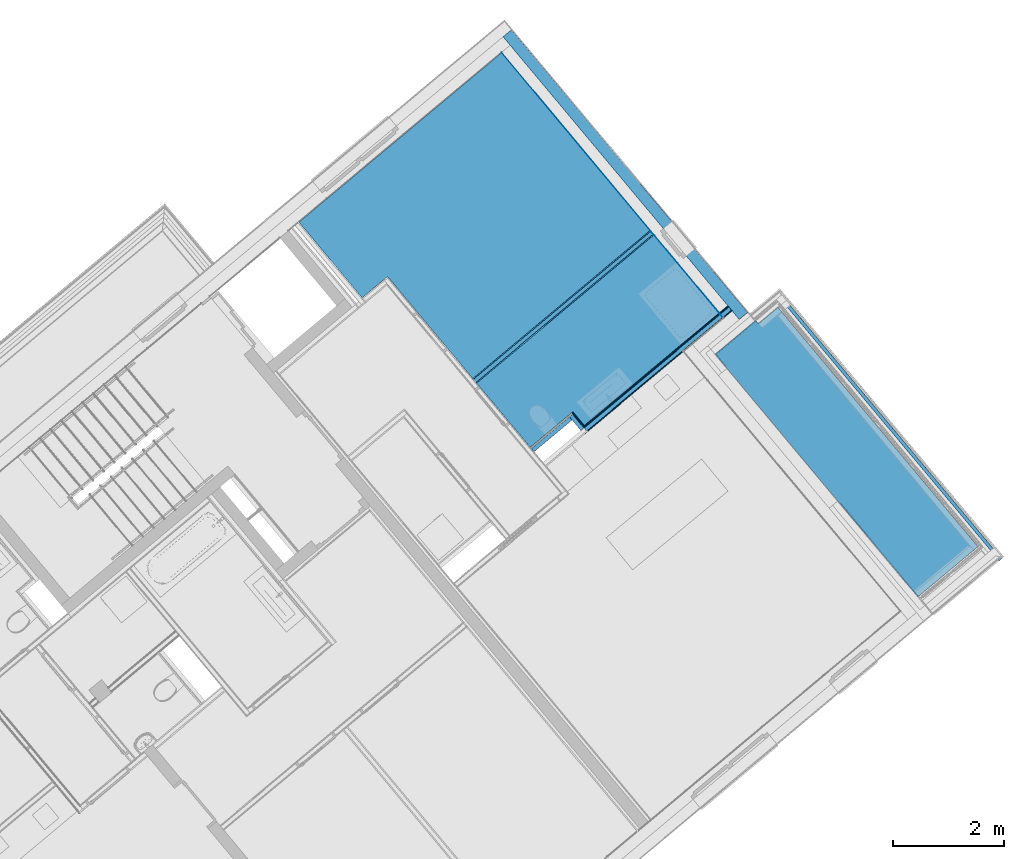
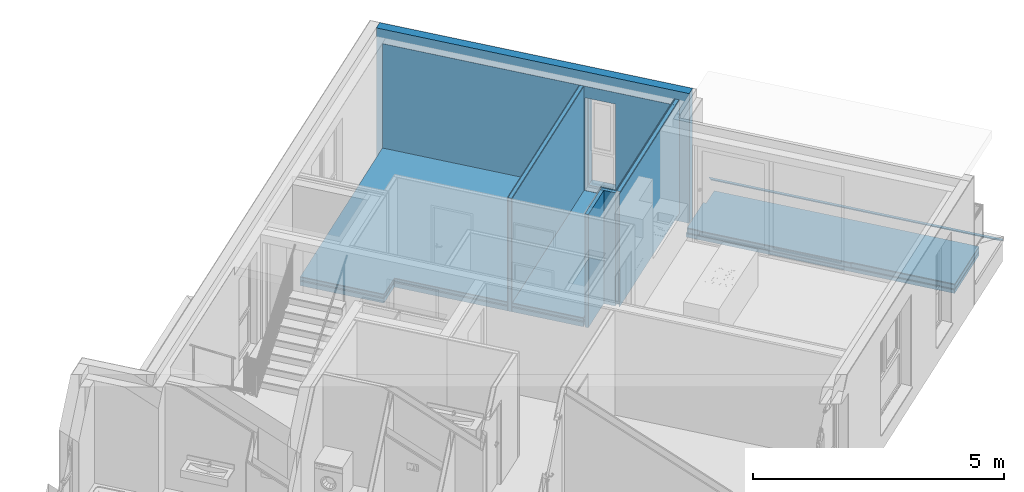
# One storey, part 36 of 53: 26 building element parts, 1 opening, 9 elements without a shape of their own.
"""IFC4 building model written with IfcOpenShell, lengths in metres."""

import ifcopenshell
import ifcopenshell.guid

model = None  # the IFC model being written
_history = None  # IfcOwnerHistory: only IFC2X3 demands one
_inside = {}  # id of a spatial element -> (the spatial element, [elements in it])
_under = {}  # id of a project, library or spatial element -> (it, [spatial elements below it])
_declared = {}  # id of a project -> (the project, [libraries it declares])
_typed = {}  # id of a type object -> (the type object, [elements of that type])
_made_of = {}  # id of a material, layer set ... -> (it, [elements and type objects made of it])


def new_model(schema):
    """Start an empty IFC model of exactly this schema.

    Asked for "IFC4X3", IfcOpenShell would pick the latest addendum, in which some entities
    have other attributes; the version numbers below select the first issue.
    IFC2X3 requires an IfcOwnerHistory on every rooted entity: one is made here for all.
    """
    global model, _history
    if schema == "IFC4X3":
        model = ifcopenshell.file(schema_version=(4, 3, 0, 0))
    else:
        model = ifcopenshell.file(schema=schema)
    _inside.clear()
    _under.clear()
    _declared.clear()
    _typed.clear()
    _made_of.clear()
    _history = None
    if model.schema == "IFC2X3":
        org = make("IfcOrganization", Name="unknown")
        user = make(
            "IfcPersonAndOrganization",
            ThePerson=make("IfcPerson", FamilyName="unknown"),
            TheOrganization=org,
        )
        app = make(
            "IfcApplication",
            ApplicationDeveloper=org,
            Version="unknown",
            ApplicationFullName="unknown",
            ApplicationIdentifier="unknown",
        )
        _history = make(
            "IfcOwnerHistory",
            OwningUser=user,
            OwningApplication=app,
            ChangeAction="ADDED",
            CreationDate=0,
        )
    return model


def make(cls, **values):
    """One entity of the class cls with the attributes given. An attribute that is None is left unset."""
    return model.create_entity(
        cls, **{name: value for name, value in values.items() if value is not None}
    )


def entity(cls, *values):
    """Any entity or typed value of the class cls, its attributes in the order of the schema. None: left unset."""
    e = model.create_entity(cls)
    for i, value in enumerate(values):
        if value is not None:
            e[i] = value
    return e


def rooted(cls, **values):
    """An entity with a GlobalId (a new one), such as an element, a storey or a relation."""
    return make(cls, GlobalId=ifcopenshell.guid.new(), OwnerHistory=_history, **values)


def si_unit(unit_type, name, prefix=None):
    """IfcSIUnit, for example si_unit("LENGTHUNIT", "METRE", prefix="MILLI")."""
    return make("IfcSIUnit", UnitType=unit_type, Prefix=prefix, Name=name)


def converted_unit(unit_type, name, factor, base, dimensions=None, offset=None):
    """IfcConversionBasedUnit, such as the inch: factor (a typed value) times the base unit."""
    return make(
        "IfcConversionBasedUnit"
        if offset is None
        else "IfcConversionBasedUnitWithOffset",
        ConversionOffset=offset,
        Dimensions=None
        if dimensions is None
        else entity("IfcDimensionalExponents", *dimensions),
        UnitType=unit_type,
        Name=name,
        ConversionFactor=make(
            "IfcMeasureWithUnit", ValueComponent=factor, UnitComponent=base
        ),
    )


def derived_unit(unit_type, elements):
    """IfcDerivedUnit: a product of units, each with its exponent."""
    return make(
        "IfcDerivedUnit",
        Elements=[
            make("IfcDerivedUnitElement", Unit=unit, Exponent=power)
            for unit, power in elements
        ],
        UnitType=unit_type,
    )


def assignment(units):
    """IfcUnitAssignment: the units of a project."""
    return None if units is None else make("IfcUnitAssignment", Units=units)


def point(xyz):
    """IfcCartesianPoint."""
    return None if xyz is None else make("IfcCartesianPoint", Coordinates=xyz)


def direction(xyz):
    """IfcDirection."""
    return None if xyz is None else make("IfcDirection", DirectionRatios=xyz)


def frame(location, z_axis=None, x_axis=None):
    """IfcAxis2Placement3D, a coordinate frame: its origin and axes. An axis left out is left unset."""
    return make(
        "IfcAxis2Placement3D",
        Location=point(location),
        Axis=direction(z_axis),
        RefDirection=direction(x_axis),
    )


def origin_with_axes():
    """The frame at (0, 0, 0) with the z axis (0, 0, 1) and the x axis (1, 0, 0) written out."""
    return frame((0.0, 0.0, 0.0), z_axis=(0.0, 0.0, 1.0), x_axis=(1.0, 0.0, 0.0))


def place(relative_to, where):
    """IfcLocalPlacement: puts the frame where relative to a parent placement (None: the world)."""
    return make(
        "IfcLocalPlacement", PlacementRelTo=relative_to, RelativePlacement=where
    )


def context(
    kind, dimensions, precision=None, world=None, true_north=None, identifier=None
):
    """IfcGeometricRepresentationContext, for example the 3D "Model" context."""
    return make(
        "IfcGeometricRepresentationContext",
        ContextIdentifier=identifier,
        ContextType=kind,
        CoordinateSpaceDimension=dimensions,
        Precision=precision,
        WorldCoordinateSystem=world,
        TrueNorth=true_north,
    )


def subcontext(parent, identifier, kind, view, scale=None):
    """IfcGeometricRepresentationSubContext, for example "Body" below "Model"."""
    return make(
        "IfcGeometricRepresentationSubContext",
        ContextIdentifier=identifier,
        ContextType=kind,
        ParentContext=parent,
        TargetScale=scale,
        TargetView=view,
    )


def project(units=None, contexts=None):
    """IfcProject with its units and contexts."""
    return rooted(
        "IfcProject",
        Name="project",
        RepresentationContexts=contexts,
        UnitsInContext=assignment(units),
    )


def spatial(cls, under=None, at=None, **own):
    """A site, building, storey or space (cls), placed at a placement, below another one or the project."""
    s = rooted(cls, ObjectPlacement=at, **own)
    if under is not None:
        _under.setdefault(under.id(), (under, []))[1].append(s)
    return s


def point_list(points):
    """IfcCartesianPointList2D or 3D."""
    cls = (
        "IfcCartesianPointList2D" if len(points[0]) == 2 else "IfcCartesianPointList3D"
    )
    return make(cls, CoordList=points)


def polygons(points, faces, closed=None, point_numbers=None):
    """IfcPolygonalFaceSet: a face is its outer loop, then its inner loops; points numbered from 1."""
    made = []
    for loops in faces:
        if len(loops) == 1:
            made.append(make("IfcIndexedPolygonalFace", CoordIndex=loops[0]))
        else:
            made.append(
                make(
                    "IfcIndexedPolygonalFaceWithVoids",
                    CoordIndex=loops[0],
                    InnerCoordIndices=loops[1:],
                )
            )
    return make(
        "IfcPolygonalFaceSet",
        Coordinates=point_list(points),
        Closed=closed,
        Faces=made,
        PnIndex=point_numbers,
    )


def shape(context_of_items, identifier, shape_type, items):
    """IfcShapeRepresentation: the items that make up one representation, for example the "Body"."""
    return make(
        "IfcShapeRepresentation",
        ContextOfItems=context_of_items,
        RepresentationIdentifier=identifier,
        RepresentationType=shape_type,
        Items=items,
    )


def material(Name=None, Category=None):
    """IfcMaterial."""
    return make("IfcMaterial", Name=Name, Category=Category)


def made_of(thing, what):
    """Note that an element or type object is made of a material, layer set ...; save() writes the relation."""
    if what is not None:
        _made_of.setdefault(what.id(), (what, []))[1].append(thing)
    return thing


def type_object(cls, material=None, **own):
    """A type object (cls), such as IfcWallType, which elements share."""
    return made_of(rooted(cls, **own), material)


def element(
    cls,
    number,
    at=None,
    inside=None,
    cuts=None,
    type_object=None,
    material=None,
    context=None,
    identifier="Body",
    shape_type=None,
    held_by="IfcProductDefinitionShape",
    body=None,
    shapes=None,
    **own,
):
    """One element of the class cls, such as IfcWall. Its Tag is "e" and its number.

    at: its placement. inside: the storey or other place that contains it. cuts: it is an
    opening in that element (IfcRelVoidsElement). A single representation is given by context,
    identifier, shape_type and body (its items); several are given by shapes. held_by: the class
    of the entity that holds the representations. save() writes the other relations.
    """
    e = rooted(cls, Tag="e%d" % number, ObjectPlacement=at, **own)
    if body is not None:
        shapes = [shape(context, identifier, shape_type, body)]
    if shapes is not None:
        e.Representation = make(held_by, Representations=shapes)
    if inside is not None:
        _inside.setdefault(inside.id(), (inside, []))[1].append(e)
    if cuts is not None:
        rooted(
            "IfcRelVoidsElement", RelatingBuildingElement=cuts, RelatedOpeningElement=e
        )
    if type_object is not None:
        _typed.setdefault(type_object.id(), (type_object, []))[1].append(e)
    return made_of(e, material)


def aggregate(whole, parts):
    """IfcRelAggregates: a whole, such as a stair, and the parts it consists of."""
    return rooted("IfcRelAggregates", RelatingObject=whole, RelatedObjects=parts)


def save(model, path):
    """Write the relations noted so far, then the file.

    IfcRelAggregates (storeys below a building ...), IfcRelContainedInSpatialStructure (elements
    in a storey), IfcRelDefinesByType, IfcRelAssociatesMaterial and IfcRelDeclares: one each for
    every whole, place, type object, material and project.
    """
    for whole, parts in _under.values():
        aggregate(whole, parts)
    for where, things in _inside.values():
        rooted(
            "IfcRelContainedInSpatialStructure",
            RelatedElements=things,
            RelatingStructure=where,
        )
    for kind, things in _typed.values():
        rooted("IfcRelDefinesByType", RelatedObjects=things, RelatingType=kind)
    for what, things in _made_of.values():
        rooted("IfcRelAssociatesMaterial", RelatedObjects=things, RelatingMaterial=what)
    for by, libraries in _declared.values():
        rooted("IfcRelDeclares", RelatingContext=by, RelatedDefinitions=libraries)
    model.write(path)


model = new_model("IFC4")

# Units and contexts
model_context = context("Model", 3, precision=1e-05, world=origin_with_axes(), true_north=direction((0.0, 1.0)))
body_context = subcontext(model_context, "Body", "Model", "MODEL_VIEW")
ifc_project = project(units=[si_unit("LENGTHUNIT", "METRE"), si_unit("AREAUNIT", "SQUARE_METRE"), si_unit("VOLUMEUNIT", "CUBIC_METRE"), converted_unit("PLANEANGLEUNIT", "DEGREE", entity("IfcPlaneAngleMeasure", 0.0174532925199), si_unit("PLANEANGLEUNIT", "RADIAN"), dimensions=[0, 0, 0, 0, 0, 0, 0]), converted_unit("TIMEUNIT", "Year", entity("IfcTimeMeasure", 31556926.0), si_unit("TIMEUNIT", "SECOND"), dimensions=[0, 0, 1, 0, 0, 0, 0]), si_unit("MASSUNIT", "GRAM", prefix="KILO"), si_unit("THERMODYNAMICTEMPERATUREUNIT", "DEGREE_CELSIUS"), si_unit("LUMINOUSINTENSITYUNIT", "LUMEN"), si_unit("ENERGYUNIT", "JOULE", prefix="MEGA"), derived_unit("THERMALCONDUCTANCEUNIT", [(si_unit("POWERUNIT", "WATT"), 1), (si_unit("LENGTHUNIT", "METRE"), -1), (si_unit("THERMODYNAMICTEMPERATUREUNIT", "KELVIN"), -1)]), derived_unit("SPECIFICHEATCAPACITYUNIT", [(si_unit("ENERGYUNIT", "JOULE"), 1), (si_unit("MASSUNIT", "GRAM", prefix="KILO"), -1), (si_unit("THERMODYNAMICTEMPERATUREUNIT", "KELVIN"), -1)]), derived_unit("MASSDENSITYUNIT", [(si_unit("MASSUNIT", "GRAM", prefix="KILO"), 1), (si_unit("VOLUMEUNIT", "CUBIC_METRE"), -1)])], contexts=[model_context])

# Site, building, storey
site_placement = place(None, frame((-0.00153261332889, -0.00661245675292, 0.0), z_axis=(0.0, 0.0, 1.0), x_axis=(1.0, 0.0, 0.0)))
site = spatial("IfcSite", under=ifc_project, at=site_placement, Name="Gelände", CompositionType="ELEMENT")
building_placement = place(site_placement, origin_with_axes())
building = spatial("IfcBuilding", under=site, at=building_placement, Name="Gebäude", CompositionType="ELEMENT")
storey_placement = place(building_placement, frame((0.0, 0.0, 2.74), z_axis=(0.0, 0.0, 1.0), x_axis=(1.0, 0.0, 0.0)))
storey = spatial("IfcBuildingStorey", under=building, at=storey_placement, Name="OG1", CompositionType="ELEMENT", Elevation=2.74)

# Wall, building element parts
wall_type_1 = type_object("IfcWallType", Name="LB 10,5 cm doppelte Vorsatzschale Bad 105", PredefinedType="NOTDEFINED")
wall_1_placement = place(storey_placement, frame((6.81308887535, 23.8632838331, 0.0), z_axis=(0.0, 0.0, 1.0), x_axis=(0.639370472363, -0.768898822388, 0.0)))
wall_1 = element("IfcWall", 1, at=wall_1_placement, inside=storey, type_object=wall_type_1, Name="Wand-004", PredefinedType="NOTDEFINED")
ifc_material_1 = material(Name="Gipskarton")
building_element_part_1_placement = place(wall_1_placement, origin_with_axes())
building_element_part_1 = element("IfcBuildingElementPart", 2, at=building_element_part_1_placement, material=ifc_material_1, Name="Gipskarton", PredefinedType="NOTDEFINED", context=body_context, shape_type="Tessellation", body=[
    polygons([(0.338014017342, 0.09, 0.0), (0.0, 0.09, 0.0), (0.0, 0.105, 0.0), (0.337978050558, 0.105, 0.0), (0.338014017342, 0.09, 2.76), (0.0, 0.09, 2.76), (0.0, 0.105, 2.76), (0.337978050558, 0.105, 2.76)], [[[1, 2, 3, 4]], [[5, 6, 2, 1]], [[3, 2, 6, 7]], [[4, 3, 7, 8]], [[4, 8, 5, 1]], [[8, 7, 6, 5]]], closed=True),
])
building_element_part_2_placement = place(wall_1_placement, origin_with_axes())
building_element_part_2 = element("IfcBuildingElementPart", 3, at=building_element_part_2_placement, material=ifc_material_1, Name="Gipskarton", PredefinedType="NOTDEFINED", context=body_context, shape_type="Tessellation", body=[
    polygons([(0.353050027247, 0.075, 0.0), (0.0, 0.075, 0.0), (0.0, 0.09, 0.0), (0.353014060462, 0.09, 0.0), (0.353050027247, 0.075, 2.76), (0.0, 0.075, 2.76), (0.0, 0.09, 2.76), (0.353014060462, 0.09, 2.76)], [[[1, 2, 3, 4]], [[5, 6, 2, 1]], [[3, 2, 6, 7]], [[4, 3, 7, 8]], [[4, 8, 5, 1]], [[8, 7, 6, 5]]], closed=True),
])
ifc_material_2 = material(Name="Mineralwolle weich")
building_element_part_3_placement = place(wall_1_placement, origin_with_axes())
building_element_part_3 = element("IfcBuildingElementPart", 4, at=building_element_part_3_placement, material=ifc_material_2, Name="Mineralwolle weich", PredefinedType="NOTDEFINED", context=body_context, shape_type="Tessellation", body=[
    polygons([(0.353050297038, 0.075, 0.0), (0.353229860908, 0.0, 0.0), (0.030000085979, 0.0, 0.0), (0.0298205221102, 0.075, 0.0), (0.353050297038, 0.075, 2.76), (0.353229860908, 0.0, 2.76), (0.030000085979, 0.0, 2.76), (0.0298205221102, 0.075, 2.76)], [[[1, 2, 3, 4]], [[2, 1, 5, 6]], [[2, 6, 7, 3]], [[8, 4, 3, 7]], [[5, 1, 4, 8]], [[6, 5, 8, 7]]], closed=True),
])
aggregate(wall_1, [building_element_part_1, building_element_part_2, building_element_part_3])

wall_type_2 = type_object("IfcWallType", Name="IW LB 01 Leichtbautrennwand einfach 10,5 cm 105", PredefinedType="NOTDEFINED")
wall_2_placement = place(storey_placement, frame((5.08746071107, 24.5291530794, 0.0), z_axis=(0.0, 0.0, 1.0), x_axis=(0.767363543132, 0.641212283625, 0.0)))
wall_2 = element("IfcWall", 5, at=wall_2_placement, inside=storey, type_object=wall_type_2, Name="Wand-012", PredefinedType="NOTDEFINED")
building_element_part_4_placement = place(wall_2_placement, origin_with_axes())
building_element_part_4 = element("IfcBuildingElementPart", 6, at=building_element_part_4_placement, material=ifc_material_1, Name="Gipskarton", PredefinedType="NOTDEFINED", context=body_context, shape_type="Tessellation", body=[
    polygons([(4.16988271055, 0.0, 2.76), (0.0, 0.0, 2.76), (-5.40145741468e-08, -0.015, 2.76), (4.16988271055, -0.015, 2.76), (4.16988271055, 0.0, 0.0), (0.0, 0.0, 0.0), (-5.40145741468e-08, -0.015, 0.0), (4.16988271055, -0.015, 0.0)], [[[1, 2, 3, 4]], [[5, 6, 2, 1]], [[3, 2, 6, 7]], [[4, 3, 7, 8]], [[4, 8, 5, 1]], [[8, 7, 6, 5]]], closed=True),
])
building_element_part_5_placement = place(wall_2_placement, origin_with_axes())
building_element_part_5 = element("IfcBuildingElementPart", 7, at=building_element_part_5_placement, material=ifc_material_2, Name="Mineralwolle weich", PredefinedType="NOTDEFINED", context=body_context, shape_type="Tessellation", body=[
    polygons([(4.16988271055, -0.015, 2.76), (-5.40145705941e-08, -0.015, 2.76), (-3.24066323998e-07, -0.09, 2.76), (4.16988271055, -0.09, 2.76), (4.16988271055, -0.015, 0.0), (-5.40145705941e-08, -0.015, 0.0), (-3.24066323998e-07, -0.09, 0.0), (4.16988271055, -0.09, 0.0)], [[[1, 2, 3, 4]], [[5, 6, 2, 1]], [[3, 2, 6, 7]], [[4, 3, 7, 8]], [[4, 8, 5, 1]], [[8, 7, 6, 5]]], closed=True),
])
building_element_part_6_placement = place(wall_2_placement, origin_with_axes())
building_element_part_6 = element("IfcBuildingElementPart", 8, at=building_element_part_6_placement, material=ifc_material_1, Name="Gipskarton", PredefinedType="NOTDEFINED", context=body_context, shape_type="Tessellation", body=[
    polygons([(4.16988271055, -0.09, 2.76), (-3.24066323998e-07, -0.09, 2.76), (-3.78076677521e-07, -0.105, 2.76), (4.16988271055, -0.105, 2.76), (4.16988271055, -0.09, 0.0), (-3.24066323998e-07, -0.09, 0.0), (-3.78076677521e-07, -0.105, 0.0), (4.16988271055, -0.105, 0.0)], [[[1, 2, 3, 4]], [[5, 6, 2, 1]], [[3, 2, 6, 7]], [[4, 3, 7, 8]], [[4, 8, 5, 1]], [[8, 7, 6, 5]]], closed=True),
])
aggregate(wall_2, [building_element_part_4, building_element_part_5, building_element_part_6])

# Wall, building element part
wall_3_placement = place(storey_placement, frame((6.19191495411, 23.207400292, 0.0), z_axis=(0.0, 0.0, 1.0), x_axis=(0.767365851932, 0.641209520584, 0.0)))
wall_3 = element("IfcWall", 9, at=wall_3_placement, inside=storey, type_object=wall_type_1, Name="Wand-004", PredefinedType="NOTDEFINED")
building_element_part_7_placement = place(wall_3_placement, origin_with_axes())
building_element_part_7 = element("IfcBuildingElementPart", 10, at=building_element_part_7_placement, material=ifc_material_2, Name="Mineralwolle weich", PredefinedType="NOTDEFINED", context=body_context, shape_type="Tessellation", body=[
    polygons([(1.00197533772, 0.0, 0.22), (1.00222642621, 0.0, 0.22), (1.00222642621, 0.0, 2.76), (1.0019753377, 0.0, 2.76), (1.00222642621, 0.075, 0.22), (1.00215490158, 0.075, 0.22), (1.00222642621, 0.075, 2.76), (1.00215490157, 0.075, 2.76)], [[[1, 2, 3, 4]], [[5, 2, 1, 6]], [[2, 5, 7, 3]], [[4, 3, 7, 8]], [[6, 1, 4, 8]], [[5, 6, 8, 7]]], closed=True),
    polygons([(0.897154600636, 0.075, 0.0), (0.896975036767, 0.0, 0.0), (0.0, 0.0, 0.0), (0.0, 0.075, 0.0), (0.897154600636, 0.075, 2.76), (0.896975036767, 0.0, 2.76), (0.0, 0.0, 2.76), (0.0, 0.075, 2.76)], [[[1, 2, 3, 4]], [[2, 1, 5, 6]], [[2, 6, 7, 3]], [[8, 4, 3, 7]], [[5, 1, 4, 8]], [[6, 5, 8, 7]]], closed=True),
])
aggregate(wall_3, [building_element_part_7])

# Wall, building element parts
wall_type_3 = type_object("IfcWallType", Name="LB 13 cm doppelte Vorsatzschale Bad  120", PredefinedType="NOTDEFINED")
wall_4_placement = place(storey_placement, frame((7.01975244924, 23.6147528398, 0.0), z_axis=(0.0, 0.0, 1.0), x_axis=(0.767363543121, 0.641212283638, 0.0)))
wall_4 = element("IfcWall", 11, at=wall_4_placement, inside=storey, type_object=wall_type_3, Name="Wand-013", PredefinedType="NOTDEFINED")
building_element_part_8_placement = place(wall_4_placement, origin_with_axes())
building_element_part_8 = element("IfcBuildingElementPart", 12, at=building_element_part_8_placement, material=ifc_material_1, Name="Gipskarton", PredefinedType="NOTDEFINED", context=body_context, shape_type="Tessellation", body=[
    polygons([(3.47843714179, 0.0, 0.0), (3.47843714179, -0.015, 0.0), (0.104964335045, -0.015, 0.0), (0.105000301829, 0.0, 0.0), (3.47843714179, 0.0, 2.76), (3.47843714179, -0.015, 2.76), (0.104964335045, -0.015, 2.76), (0.105000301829, 0.0, 2.76)], [[[1, 2, 3, 4]], [[1, 5, 6, 2]], [[2, 6, 7, 3]], [[4, 3, 7, 8]], [[5, 1, 4, 8]], [[6, 5, 8, 7]]], closed=True),
])
building_element_part_9_placement = place(wall_4_placement, origin_with_axes())
building_element_part_9 = element("IfcBuildingElementPart", 13, at=building_element_part_9_placement, material=ifc_material_1, Name="Gipskarton", PredefinedType="NOTDEFINED", context=body_context, shape_type="Tessellation", body=[
    polygons([(3.47843714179, -0.015, 0.0), (3.47843714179, -0.03, 0.0), (0.0899283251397, -0.03, 0.0), (0.0899642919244, -0.015, 0.0), (3.47843714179, -0.015, 2.76), (3.47843714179, -0.03, 2.76), (0.0899283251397, -0.03, 2.76), (0.0899642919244, -0.015, 2.76)], [[[1, 2, 3, 4]], [[1, 5, 6, 2]], [[2, 6, 7, 3]], [[4, 3, 7, 8]], [[5, 1, 4, 8]], [[6, 5, 8, 7]]], closed=True),
])
building_element_part_10_placement = place(wall_4_placement, origin_with_axes())
building_element_part_10 = element("IfcBuildingElementPart", 14, at=building_element_part_10_placement, material=ifc_material_2, Name="Mineralwolle weich", PredefinedType="NOTDEFINED", context=body_context, shape_type="Tessellation", body=[
    polygons([(3.47843714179, -0.03, 0.0), (3.47843714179, -0.105, 0.0), (0.0747484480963, -0.105, 0.0), (0.0749282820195, -0.03, 0.0), (3.47843714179, -0.03, 2.76), (3.47843714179, -0.105, 2.76), (0.0747484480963, -0.105, 2.76), (0.0749282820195, -0.03, 2.76)], [[[1, 2, 3, 4]], [[1, 5, 6, 2]], [[2, 6, 7, 3]], [[4, 3, 7, 8]], [[5, 1, 4, 8]], [[6, 5, 8, 7]]], closed=True),
])
ifc_material_3 = material(Name="Gipsputz")
building_element_part_11_placement = place(wall_4_placement, origin_with_axes())
building_element_part_11 = element("IfcBuildingElementPart", 15, at=building_element_part_11_placement, material=ifc_material_3, Name="Gipsputz", PredefinedType="NOTDEFINED", context=body_context, shape_type="Tessellation", body=[
    polygons([(3.47843714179, -0.105, 0.0), (3.47843714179, -0.12, 0.0), (-0.000287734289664, -0.12, 0.0), (-0.00025176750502, -0.105, 0.0), (3.47843714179, -0.105, 2.76), (3.47843714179, -0.12, 2.76), (-0.000287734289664, -0.12, 2.76), (-0.00025176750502, -0.105, 2.76)], [[[1, 2, 3, 4]], [[1, 5, 6, 2]], [[2, 6, 7, 3]], [[4, 3, 7, 8]], [[5, 1, 4, 8]], [[6, 5, 8, 7]]], closed=True),
])
aggregate(wall_4, [building_element_part_8, building_element_part_9, building_element_part_10, building_element_part_11])

# Wall, opening, building element parts
wall_type_4 = type_object("IfcWallType", Name="AW EG 420", PredefinedType="NOTDEFINED")
wall_5_placement = place(storey_placement, frame((10.2002241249, 25.5686441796, -0.2), z_axis=(0.0, 0.0, 1.0), x_axis=(-0.641212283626, 0.767363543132, 0.0)))
wall_5 = element("IfcWall", 16, at=wall_5_placement, inside=storey, type_object=wall_type_4, Name="Wand-002", PredefinedType="NOTDEFINED")
opening_placement = place(wall_5_placement, frame((2.02991923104, 0.0, 0.42), z_axis=(0.0, 0.0, 1.0), x_axis=(1.0, 0.0, 0.0)))
element("IfcOpeningElement", 17, at=opening_placement, cuts=wall_5, Name="Fenster-001", context=body_context, identifier="Reference", shape_type="Tessellation", body=[
    polygons([(0.325, 0.215, 0.0), (0.325, 0.215, 2.26), (0.325, -3.48548204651, 2.26), (0.325, -3.48548204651, 0.0), (0.325, 3.90548204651, 0.0), (0.325, 3.90548204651, 2.26), (-0.325, 0.215, 2.26), (-0.325, -3.48548204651, 2.26), (-0.325, 3.90548204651, 2.26), (-0.325, -3.48548204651, 0.0), (-0.325, 0.215, 0.0), (-0.325, 3.90548204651, 0.0)], [[[1, 2, 3, 4]], [[2, 1, 5, 6]], [[7, 8, 3, 2, 6, 9]], [[8, 10, 4, 3]], [[1, 4, 10, 11, 12, 5]], [[6, 5, 12, 9]], [[7, 11, 10, 8]], [[11, 7, 9, 12]]], closed=True),
])
ifc_material_4 = material(Name="Zementputz")
building_element_part_12_placement = place(wall_5_placement, origin_with_axes())
building_element_part_12 = element("IfcBuildingElementPart", 18, at=building_element_part_12_placement, material=ifc_material_4, Name="Zementputz", PredefinedType="NOTDEFINED", context=body_context, shape_type="Tessellation", body=[
    polygons([(6.66166417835, 0.42, 2.96), (6.66166417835, 0.42, 0.2), (0.420001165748, 0.42, 0.2), (0.420001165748, 0.42, 2.96), (2.35491923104, 0.42, 0.42), (2.35491923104, 0.42, 2.68), (1.70491923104, 0.42, 2.68), (1.70491923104, 0.42, 0.42), (6.66166416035, 0.415, 2.96), (6.66166416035, 0.415, 0.2), (0.42000115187, 0.415, 0.2), (0.42000115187, 0.415, 2.96), (2.35491923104, 0.415, 0.42), (2.35491923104, 0.415, 2.68), (1.70491923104, 0.415, 2.68), (1.70491923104, 0.415, 0.42)], [[[1, 2, 3, 4], [5, 6, 7, 8]], [[9, 10, 2, 1]], [[11, 3, 2, 10]], [[4, 3, 11, 12]], [[12, 9, 1, 4]], [[13, 14, 6, 5]], [[14, 15, 7, 6]], [[15, 16, 8, 7]], [[16, 13, 5, 8]], [[12, 11, 10, 9], [13, 16, 15, 14]]], closed=True),
])
ifc_material_5 = material(Name="EPS 1")
building_element_part_13_placement = place(wall_5_placement, origin_with_axes())
building_element_part_13 = element("IfcBuildingElementPart", 19, at=building_element_part_13_placement, material=ifc_material_5, Name="EPS 1", PredefinedType="NOTDEFINED", context=body_context, shape_type="Tessellation", body=[
    polygons([(6.86666344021, 0.215, 0.0), (0.215000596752, 0.215, 0.0), (0.215000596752, 0.215, 3.16), (6.86666344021, 0.215, 3.16), (2.35491923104, 0.215, 0.42), (2.35491923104, 0.215, 2.68), (1.70491923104, 0.215, 2.68), (1.70491923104, 0.215, 0.42), (6.86666272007, 0.015, 0.0), (0.215000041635, 0.015, 0.0), (0.215000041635, 0.015, 3.16), (6.86666272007, 0.015, 3.16), (2.35491923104, 0.015, 0.42), (2.35491923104, 0.015, 2.68), (1.70491923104, 0.015, 2.68), (1.70491923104, 0.015, 0.42)], [[[1, 2, 3, 4], [5, 6, 7, 8]], [[9, 10, 2, 1]], [[2, 10, 11, 3]], [[4, 3, 11, 12]], [[1, 4, 12, 9]], [[13, 14, 6, 5]], [[14, 15, 7, 6]], [[15, 16, 8, 7]], [[16, 13, 5, 8]], [[12, 11, 10, 9], [13, 16, 15, 14]]], closed=True),
])
aggregate(wall_5, [building_element_part_12, building_element_part_13])

# Covering, building element parts
covering_type_1 = type_object("IfcCoveringType", Name="DE 01 Decke Wohnung/Wohnung Fließen 220", PredefinedType="NOTDEFINED")
covering_1_placement = place(storey_placement, frame((5.15478771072, 24.448579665, 0.22), z_axis=(0.0, 0.0, 1.0), x_axis=(1.0, 0.0, 0.0)))
covering_1 = element("IfcCovering", 20, at=covering_1_placement, inside=storey, type_object=covering_type_1, Name="Decke-001", PredefinedType="NOTDEFINED")
ifc_material_6 = material(Name="Fliesen")
building_element_part_14_placement = place(covering_1_placement, origin_with_axes())
building_element_part_14 = element("IfcBuildingElementPart", 21, at=building_element_part_14_placement, material=ifc_material_6, Name="Fliesen", PredefinedType="NOTDEFINED", context=body_context, shape_type="Tessellation", body=[
    polygons([(0.969800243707, -1.16060595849, 0.0), (0.969800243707, -1.16060595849, -0.015), (1.71585376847, -0.537204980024, -0.015), (1.71585376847, -0.537204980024, 0.0), (0.0, 0.0, 0.0), (0.0, 0.0, -0.015), (3.19981626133, 2.6737802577, -0.015), (4.37688106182, 1.26514127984, -0.015), (1.94553838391, -0.766499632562, -0.015), (1.75805597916, -0.54103567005, -0.015), (1.75811086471, -0.540989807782, -0.015), (1.73903554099, -0.518161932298, -0.015), (1.71596857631, -0.537343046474, -0.015), (1.71596857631, -0.537343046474, 0.0), (1.73903554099, -0.518161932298, 0.0), (1.75811086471, -0.540989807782, 0.0), (1.75805597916, -0.54103567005, 0.0), (1.94553838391, -0.766499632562, 0.0), (4.37688106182, 1.26514127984, 0.0), (3.19981626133, 2.6737802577, 0.0)], [[[1, 2, 3, 4]], [[2, 1, 5, 6]], [[3, 2, 6, 7, 8, 9, 10, 11, 12, 13]], [[13, 14, 4, 3]], [[1, 4, 14, 15, 16, 17, 18, 19, 20, 5]], [[6, 5, 20, 7]], [[19, 8, 7, 20]], [[18, 9, 8, 19]], [[9, 18, 17, 10]], [[10, 17, 16, 11]], [[16, 15, 12, 11]], [[14, 13, 12, 15]]], closed=True),
])
ifc_material_7 = material(Name="Estrich")
building_element_part_15_placement = place(covering_1_placement, origin_with_axes())
building_element_part_15 = element("IfcBuildingElementPart", 22, at=building_element_part_15_placement, material=ifc_material_7, Name="Estrich", PredefinedType="NOTDEFINED", context=body_context, shape_type="Tessellation", body=[
    polygons([(0.969800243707, -1.16060595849, -0.015), (0.969800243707, -1.16060595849, -0.08), (1.71585376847, -0.537204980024, -0.08), (1.71585376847, -0.537204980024, -0.015), (0.0, 0.0, -0.015), (0.0, 0.0, -0.08), (3.19981626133, 2.6737802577, -0.08), (4.37688106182, 1.26514127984, -0.08), (1.94553838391, -0.766499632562, -0.08), (1.75805597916, -0.54103567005, -0.08), (1.75811086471, -0.540989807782, -0.08), (1.73903554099, -0.518161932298, -0.08), (1.71596857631, -0.537343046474, -0.08), (1.71596857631, -0.537343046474, -0.015), (1.73903554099, -0.518161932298, -0.015), (1.75811086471, -0.540989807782, -0.015), (1.75805597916, -0.54103567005, -0.015), (1.94553838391, -0.766499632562, -0.015), (4.37688106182, 1.26514127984, -0.015), (3.19981626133, 2.6737802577, -0.015)], [[[1, 2, 3, 4]], [[2, 1, 5, 6]], [[3, 2, 6, 7, 8, 9, 10, 11, 12, 13]], [[13, 14, 4, 3]], [[1, 4, 14, 15, 16, 17, 18, 19, 20, 5]], [[6, 5, 20, 7]], [[19, 8, 7, 20]], [[18, 9, 8, 19]], [[9, 18, 17, 10]], [[10, 17, 16, 11]], [[16, 15, 12, 11]], [[14, 13, 12, 15]]], closed=True),
])
ifc_material_8 = material(Name="Trittschalldämmung")
building_element_part_16_placement = place(covering_1_placement, origin_with_axes())
building_element_part_16 = element("IfcBuildingElementPart", 23, at=building_element_part_16_placement, material=ifc_material_8, Name="Trittschalldämmung", PredefinedType="NOTDEFINED", context=body_context, shape_type="Tessellation", body=[
    polygons([(0.969800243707, -1.16060595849, -0.08), (0.969800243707, -1.16060595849, -0.11), (1.71585376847, -0.537204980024, -0.11), (1.71585376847, -0.537204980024, -0.08), (0.0, 0.0, -0.08), (0.0, 0.0, -0.11), (3.19981626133, 2.6737802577, -0.11), (4.37688106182, 1.26514127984, -0.11), (1.94553838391, -0.766499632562, -0.11), (1.75805597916, -0.54103567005, -0.11), (1.75811086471, -0.540989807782, -0.11), (1.73903554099, -0.518161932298, -0.11), (1.71596857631, -0.537343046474, -0.11), (1.71596857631, -0.537343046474, -0.08), (1.73903554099, -0.518161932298, -0.08), (1.75811086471, -0.540989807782, -0.08), (1.75805597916, -0.54103567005, -0.08), (1.94553838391, -0.766499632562, -0.08), (4.37688106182, 1.26514127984, -0.08), (3.19981626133, 2.6737802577, -0.08)], [[[1, 2, 3, 4]], [[2, 1, 5, 6]], [[3, 2, 6, 7, 8, 9, 10, 11, 12, 13]], [[13, 14, 4, 3]], [[5, 1, 4, 14, 15, 16, 17, 18, 19, 20]], [[6, 5, 20, 7]], [[19, 8, 7, 20]], [[18, 9, 8, 19]], [[9, 18, 17, 10]], [[10, 17, 16, 11]], [[16, 15, 12, 11]], [[14, 13, 12, 15]]], closed=True),
])
ifc_material_9 = material(Name="Schüttung")
building_element_part_17_placement = place(covering_1_placement, origin_with_axes())
building_element_part_17 = element("IfcBuildingElementPart", 24, at=building_element_part_17_placement, material=ifc_material_9, Name="Schüttung", PredefinedType="NOTDEFINED", context=body_context, shape_type="Tessellation", body=[
    polygons([(0.969800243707, -1.16060595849, -0.11), (0.969800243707, -1.16060595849, -0.22), (1.71585376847, -0.537204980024, -0.22), (1.71585376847, -0.537204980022, -0.11), (0.0, 0.0, -0.11), (0.0, 0.0, -0.22), (3.19981626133, 2.6737802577, -0.22), (4.37688106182, 1.26514127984, -0.22), (1.94553838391, -0.766499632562, -0.22), (1.75805597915, -0.541035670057, -0.22), (1.75811086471, -0.540989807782, -0.22), (1.73903554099, -0.518161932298, -0.22), (1.71596857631, -0.537343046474, -0.22), (1.71596857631, -0.537343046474, -0.11), (1.73903554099, -0.518161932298, -0.11), (1.75811086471, -0.540989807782, -0.11), (1.75805597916, -0.54103567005, -0.11), (1.94553838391, -0.766499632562, -0.11), (4.37688106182, 1.26514127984, -0.11), (3.19981626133, 2.6737802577, -0.11)], [[[1, 2, 3, 4]], [[2, 1, 5, 6]], [[3, 2, 6, 7, 8, 9, 10, 11, 12, 13]], [[3, 13, 14, 4]], [[1, 4, 14, 15, 16, 17, 18, 19, 20, 5]], [[6, 5, 20, 7]], [[19, 8, 7, 20]], [[18, 9, 8, 19]], [[9, 18, 17, 10]], [[11, 10, 17, 16]], [[12, 11, 16, 15]], [[14, 13, 12, 15]]], closed=True),
])
aggregate(covering_1, [building_element_part_14, building_element_part_15, building_element_part_16, building_element_part_17])

# Space
space_placement = place(storey_placement, frame((8.28727668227, 27.2029330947, 0.15), z_axis=(0.0, 0.0, 1.0), x_axis=(-0.641212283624, 0.767363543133, 0.0)))
space = spatial("IfcSpace", under=storey, at=space_placement, CompositionType="ELEMENT", PredefinedType="NOTDEFINED")

# Covering, building element parts
covering_type_2 = type_object("IfcCoveringType", Name="DE 01 Decke Wohnung/Wohnung Parkett 220", PredefinedType="NOTDEFINED")
covering_2_placement = place(space_placement, frame((4.1809822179, 4.76855555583, 0.07), z_axis=(0.0, 0.0, 1.0), x_axis=(-0.641212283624, -0.767363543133, 0.0)))
covering_2 = element("IfcCovering", 25, at=covering_2_placement, inside=space, type_object=covering_type_2, Name="Decke-005", PredefinedType="NOTDEFINED")
ifc_material_10 = material(Name="Parkett")
building_element_part_18_placement = place(covering_2_placement, origin_with_axes())
building_element_part_18 = element("IfcBuildingElementPart", 26, at=building_element_part_18_placement, material=ifc_material_10, Name="Parkett", PredefinedType="NOTDEFINED", context=body_context, shape_type="Tessellation", body=[
    polygons([(0.0, 0.0, 0.0), (0.0, 0.0, -0.015), (1.14208254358, -1.36678718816, -0.015), (1.14208254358, -1.36678718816, 0.0), (3.65922669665, 3.05764322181, 0.0), (3.65922669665, 3.05764322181, -0.015), (1.60148856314, -0.982894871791, -0.015), (6.34011284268, -0.150676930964, -0.015), (3.14029687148, -2.82445694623, -0.015), (1.60148856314, -0.982894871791, 0.0), (6.34011284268, -0.150676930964, 0.0), (3.14029687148, -2.82445694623, 0.0)], [[[1, 2, 3, 4]], [[5, 6, 2, 1]], [[7, 3, 2, 6, 8, 9]], [[4, 3, 7, 10]], [[11, 5, 1, 4, 10, 12]], [[11, 8, 6, 5]], [[12, 9, 8, 11]], [[10, 7, 9, 12]]], closed=True),
])
building_element_part_19_placement = place(covering_2_placement, origin_with_axes())
building_element_part_19 = element("IfcBuildingElementPart", 27, at=building_element_part_19_placement, material=ifc_material_7, Name="Estrich", PredefinedType="NOTDEFINED", context=body_context, shape_type="Tessellation", body=[
    polygons([(0.0, 0.0, -0.015), (0.0, 0.0, -0.08), (1.14208254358, -1.36678718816, -0.08), (1.14208254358, -1.36678718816, -0.015), (3.65922669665, 3.05764322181, -0.015), (3.65922669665, 3.05764322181, -0.08), (1.60148856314, -0.982894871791, -0.08), (6.34011284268, -0.150676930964, -0.08), (3.14029687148, -2.82445694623, -0.08), (1.60148856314, -0.982894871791, -0.015), (6.34011284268, -0.150676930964, -0.015), (3.14029687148, -2.82445694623, -0.015)], [[[1, 2, 3, 4]], [[5, 6, 2, 1]], [[7, 3, 2, 6, 8, 9]], [[4, 3, 7, 10]], [[11, 5, 1, 4, 10, 12]], [[11, 8, 6, 5]], [[12, 9, 8, 11]], [[10, 7, 9, 12]]], closed=True),
])
building_element_part_20_placement = place(covering_2_placement, origin_with_axes())
building_element_part_20 = element("IfcBuildingElementPart", 28, at=building_element_part_20_placement, material=ifc_material_8, Name="Trittschalldämmung", PredefinedType="NOTDEFINED", context=body_context, shape_type="Tessellation", body=[
    polygons([(0.0, 0.0, -0.08), (0.0, 0.0, -0.11), (1.14208254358, -1.36678718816, -0.11), (1.14208254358, -1.36678718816, -0.08), (3.65922669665, 3.05764322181, -0.08), (3.65922669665, 3.05764322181, -0.11), (1.60148856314, -0.982894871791, -0.11), (6.34011284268, -0.150676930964, -0.11), (3.14029687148, -2.82445694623, -0.11), (1.60148856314, -0.982894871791, -0.08), (6.34011284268, -0.150676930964, -0.08), (3.14029687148, -2.82445694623, -0.08)], [[[1, 2, 3, 4]], [[5, 6, 2, 1]], [[7, 3, 2, 6, 8, 9]], [[4, 3, 7, 10]], [[11, 5, 1, 4, 10, 12]], [[11, 8, 6, 5]], [[12, 9, 8, 11]], [[10, 7, 9, 12]]], closed=True),
])
building_element_part_21_placement = place(covering_2_placement, origin_with_axes())
building_element_part_21 = element("IfcBuildingElementPart", 29, at=building_element_part_21_placement, material=ifc_material_9, Name="Schüttung", PredefinedType="NOTDEFINED", context=body_context, shape_type="Tessellation", body=[
    polygons([(1.14208254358, -1.36678718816, -0.11), (0.0, 0.0, -0.11), (0.0, 0.0, -0.22), (1.14208254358, -1.36678718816, -0.22), (6.34011284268, -0.150676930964, -0.11), (3.65922669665, 3.05764322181, -0.11), (1.60148856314, -0.982894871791, -0.11), (3.14029687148, -2.82445694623, -0.11), (3.65922669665, 3.05764322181, -0.22), (1.60148856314, -0.982894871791, -0.22), (6.34011284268, -0.150676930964, -0.22), (3.14029687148, -2.82445694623, -0.22)], [[[1, 2, 3, 4]], [[5, 6, 2, 1, 7, 8]], [[2, 6, 9, 3]], [[10, 4, 3, 9, 11, 12]], [[7, 1, 4, 10]], [[6, 5, 11, 9]], [[8, 7, 10, 12]], [[5, 8, 12, 11]]], closed=True),
])
aggregate(covering_2, [building_element_part_18, building_element_part_19, building_element_part_20, building_element_part_21])

# Wall, building element part
wall_type_5 = type_object("IfcWallType", Name="Bauteil - Attika Balkon 356 x 610", PredefinedType="NOTDEFINED")
wall_6_placement = place(storey_placement, frame((10.5963720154, 25.814959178, -0.2), z_axis=(0.0, 0.0, 1.0), x_axis=(0.641206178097, -0.767368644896, 0.0)))
wall_6 = element("IfcWall", 30, at=wall_6_placement, inside=storey, type_object=wall_type_5, Name="Wand-003", PredefinedType="NOTDEFINED")
ifc_material_11 = material(Name="Vollholz")
building_element_part_22_placement = place(wall_6_placement, origin_with_axes())
building_element_part_22 = element("IfcBuildingElementPart", 31, at=building_element_part_22_placement, material=ifc_material_11, Name="Vollholz", PredefinedType="NOTDEFINED", context=body_context, shape_type="Tessellation", body=[
    polygons([(6.01965317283, 0.189984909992, 0.586106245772), (6.01966414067, 0.189996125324, 0.584015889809), (6.01967537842, 0.190007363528, 0.581921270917), (6.06981907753, 0.190007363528, 0.581921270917), (6.0711682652, 0.190007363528, 0.581921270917), (6.07116826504, 0.190039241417, 0.575979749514), (6.06981868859, 0.190039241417, 0.575979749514), (6.01970725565, 0.190039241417, 0.575979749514), (6.0197094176, 0.190041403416, 0.575576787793), (6.01971851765, 0.190050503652, 0.573880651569), (6.01975034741, 0.190082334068, 0.567947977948), (6.01979298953, 0.190124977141, 0.560000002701), (-0.130126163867, 0.190124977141, 0.560000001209), (-0.130126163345, 0.190041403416, 0.575576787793), (-0.130126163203, 0.190018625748, 0.57982217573), (-0.130126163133, 0.190007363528, 0.581921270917), (-0.130126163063, 0.189996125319, 0.584015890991), (-0.189986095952, 0.189984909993, 0.586106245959), (6.0196644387, 0.130124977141, 0.584015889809), (6.01967567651, 0.130124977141, 0.581921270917), (6.06981937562, 0.130124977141, 0.581921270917), (6.07116856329, 0.130124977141, 0.581921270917), (6.07116856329, 0.130124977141, 0.575979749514), (6.06981898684, 0.130124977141, 0.575979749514), (6.0197075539, 0.130124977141, 0.575979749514), (6.01970971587, 0.130124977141, 0.575576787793), (6.01971881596, 0.130124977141, 0.573880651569), (6.01975064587, 0.130124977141, 0.567947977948), (6.01979328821, 0.130124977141, 0.560000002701), (-0.130125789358, 0.130124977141, 0.560000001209), (-0.130125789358, 0.130124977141, 0.575576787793), (-0.130125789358, 0.130124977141, 0.57982217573), (-0.130125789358, 0.130124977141, 0.581921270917), (-0.130125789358, 0.130124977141, 0.584015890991)], [[[1, 2, 3, 4, 5, 6, 7, 8, 9, 10, 11, 12, 13, 14, 15, 16, 17, 18]], [[19, 2, 1]], [[2, 19, 20, 3]], [[20, 21, 4, 3]], [[5, 4, 21, 22]], [[23, 6, 5, 22]], [[23, 24, 7, 6]], [[25, 8, 7, 24]], [[26, 9, 8, 25]], [[10, 9, 26, 27]], [[28, 11, 10, 27]], [[11, 28, 29, 12]], [[30, 13, 12, 29]], [[14, 13, 30, 31]], [[14, 31, 32, 15]], [[16, 15, 32, 33]], [[16, 33, 34, 17]], [[17, 34, 18]], [[19, 1, 18, 34]], [[25, 24, 23, 22, 21, 20, 19, 34, 33, 32, 31, 30, 29, 28, 27, 26]]], closed=True),
])
aggregate(wall_6, [building_element_part_22])

# Covering, building element parts
covering_type_3 = type_object("IfcCoveringType", Name="Balkon 220", PredefinedType="NOTDEFINED")
covering_3_placement = place(storey_placement, frame((9.45914172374, 24.9689434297, 0.0), z_axis=(0.0, 0.0, 1.0), x_axis=(1.0, 0.0, 0.0)))
covering_3 = element("IfcCovering", 32, at=covering_3_placement, inside=storey, type_object=covering_type_3, Name="Decke-005", PredefinedType="NOTDEFINED")
ifc_material_12 = material(Name="Platten")
building_element_part_23_placement = place(covering_3_placement, origin_with_axes())
building_element_part_23 = element("IfcBuildingElementPart", 33, at=building_element_part_23_placement, material=ifc_material_12, Name="Platten", PredefinedType="NOTDEFINED", context=body_context, shape_type="Tessellation", body=[
    polygons([(0.741082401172, 0.599700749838, 0.2), (0.741082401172, 0.599700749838, 0.22), (0.782761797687, 0.549821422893, 0.22), (0.782761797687, 0.549821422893, 0.2), (0.0211286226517, -0.00189233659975, 0.22), (0.0211286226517, -0.00189233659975, 0.2), (0.193524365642, -0.208206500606, 0.22), (0.182013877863, -0.217824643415, 0.22), (2.24670853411, -2.68874268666, 0.22), (2.25821902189, -2.67912454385, 0.22), (3.67260468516, -4.37178696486, 0.22), (4.74700876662, -3.47401574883, 0.22), (1.13722952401, 0.846014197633, 0.22), (1.13722952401, 0.846014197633, 0.2), (4.74700876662, -3.47401574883, 0.2), (3.67260468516, -4.37178696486, 0.2), (2.25821902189, -2.67912454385, 0.2), (2.24670853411, -2.68874268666, 0.2), (0.182013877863, -0.217824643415, 0.2), (0.193524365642, -0.208206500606, 0.2)], [[[1, 2, 3, 4]], [[5, 2, 1, 6]], [[2, 5, 7, 8, 9, 10, 11, 12, 13, 3]], [[14, 4, 3, 13]], [[6, 1, 4, 14, 15, 16, 17, 18, 19, 20]], [[5, 6, 20, 7]], [[8, 7, 20, 19]], [[18, 9, 8, 19]], [[10, 9, 18, 17]], [[16, 11, 10, 17]], [[11, 16, 15, 12]], [[15, 14, 13, 12]]], closed=True),
])
ifc_material_13 = material(Name="Luftschicht horizontal")
building_element_part_24_placement = place(covering_3_placement, origin_with_axes())
building_element_part_24 = element("IfcBuildingElementPart", 34, at=building_element_part_24_placement, material=ifc_material_13, Name="Luftschicht horizontal", PredefinedType="NOTDEFINED", context=body_context, shape_type="Tessellation", body=[
    polygons([(0.741082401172, 0.599700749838, 0.1), (0.741082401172, 0.599700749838, 0.2), (0.782761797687, 0.549821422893, 0.2), (0.782761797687, 0.549821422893, 0.1), (0.0211286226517, -0.00189233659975, 0.2), (0.0211286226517, -0.00189233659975, 0.1), (0.193524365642, -0.208206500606, 0.2), (0.182013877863, -0.217824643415, 0.2), (2.24670853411, -2.68874268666, 0.2), (2.25821902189, -2.67912454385, 0.2), (3.67260468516, -4.37178696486, 0.2), (4.74700876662, -3.47401574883, 0.2), (1.13722952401, 0.846014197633, 0.2), (1.13722952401, 0.846014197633, 0.1), (4.74700876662, -3.47401574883, 0.1), (3.67260468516, -4.37178696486, 0.1), (2.25821902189, -2.67912454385, 0.1), (2.24670853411, -2.68874268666, 0.1), (0.182013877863, -0.217824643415, 0.1), (0.193524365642, -0.208206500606, 0.1)], [[[1, 2, 3, 4]], [[5, 2, 1, 6]], [[2, 5, 7, 8, 9, 10, 11, 12, 13, 3]], [[14, 4, 3, 13]], [[6, 1, 4, 14, 15, 16, 17, 18, 19, 20]], [[5, 6, 20, 7]], [[8, 7, 20, 19]], [[18, 9, 8, 19]], [[10, 9, 18, 17]], [[16, 11, 10, 17]], [[11, 16, 15, 12]], [[15, 14, 13, 12]]], closed=True),
])
ifc_material_14 = material(Name="Sperrschicht")
building_element_part_25_placement = place(covering_3_placement, origin_with_axes())
building_element_part_25 = element("IfcBuildingElementPart", 35, at=building_element_part_25_placement, material=ifc_material_14, Name="Sperrschicht", PredefinedType="NOTDEFINED", context=body_context, shape_type="Tessellation", body=[
    polygons([(3.66109421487, -4.38140510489, 0.085), (3.66109421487, -4.38140510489, 0.1), (0.0, 0.0, 0.1), (0.0, 0.0, 0.085), (4.74700876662, -3.47401574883, 0.085), (4.74700876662, -3.47401574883, 0.1), (1.13722952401, 0.846014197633, 0.1), (0.782761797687, 0.549821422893, 0.1), (0.741082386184, 0.599700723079, 0.1), (0.731464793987, 0.611210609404, 0.1), (0.731464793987, 0.611210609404, 0.085), (0.741082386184, 0.599700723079, 0.085), (0.782761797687, 0.549821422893, 0.085), (1.13722952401, 0.846014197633, 0.085)], [[[1, 2, 3, 4]], [[5, 6, 2, 1]], [[3, 2, 6, 7, 8, 9, 10]], [[4, 3, 10, 11]], [[4, 11, 12, 13, 14, 5, 1]], [[14, 7, 6, 5]], [[13, 8, 7, 14]], [[12, 9, 8, 13]], [[11, 10, 9, 12]]], closed=True),
])
ifc_material_15 = material(Name="Stampfbeton")
building_element_part_26_placement = place(covering_3_placement, origin_with_axes())
building_element_part_26 = element("IfcBuildingElementPart", 36, at=building_element_part_26_placement, material=ifc_material_15, Name="Stampfbeton", PredefinedType="NOTDEFINED", context=body_context, shape_type="Tessellation", body=[
    polygons([(0.0, 0.0, 0.0), (3.66109421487, -4.38140510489, 0.0), (3.66109421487, -4.38140510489, 0.085), (0.0, 0.0, 0.085), (0.731464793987, 0.611210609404, 0.0), (0.741082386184, 0.599700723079, 0.0), (0.782761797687, 0.549821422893, 0.0), (1.13722952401, 0.846014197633, 0.0), (4.74700876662, -3.47401574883, 0.0), (4.74700876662, -3.47401574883, 0.085), (1.13722952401, 0.846014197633, 0.085), (0.782761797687, 0.549821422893, 0.085), (0.741082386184, 0.599700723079, 0.085), (0.731464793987, 0.611210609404, 0.085)], [[[1, 2, 3, 4]], [[1, 5, 6, 7, 8, 9, 2]], [[2, 9, 10, 3]], [[4, 3, 10, 11, 12, 13, 14]], [[5, 1, 4, 14]], [[6, 5, 14, 13]], [[7, 6, 13, 12]], [[8, 7, 12, 11]], [[9, 8, 11, 10]]], closed=True),
])
aggregate(covering_3, [building_element_part_23, building_element_part_24, building_element_part_25, building_element_part_26])

save(model, "model.ifc")
